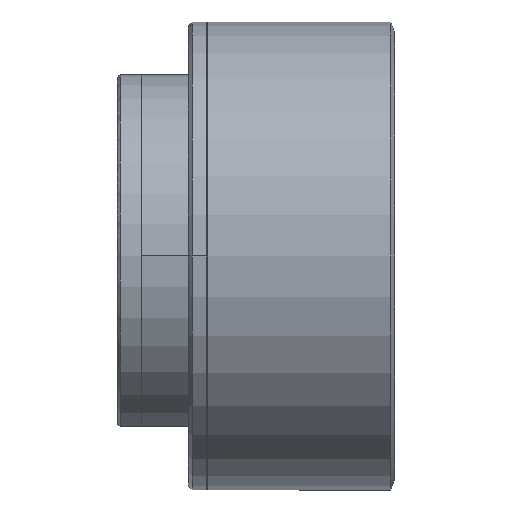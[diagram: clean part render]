
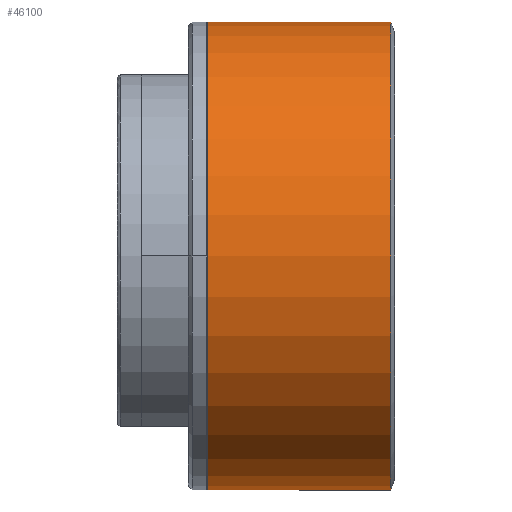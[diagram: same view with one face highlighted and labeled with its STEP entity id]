
A CAD part, front view. The second image highlights one B-rep face of the part: STEP entity #46100.
In plain terms, the highlighted cylindrical face has radius 44.5 mm (diameter 89 mm), a partial arc.
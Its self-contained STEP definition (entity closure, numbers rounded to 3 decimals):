
#311 = EDGE_CURVE ( 'NONE', #941, #28410, #35727, .T. ) ;
#941 = VERTEX_POINT ( 'NONE', #11945 ) ;
#3556 = AXIS2_PLACEMENT_3D ( 'NONE', #19122, #10914, #15012 ) ;
#3715 = ORIENTED_EDGE ( 'NONE', *, *, #311, .F. ) ;
#3857 = AXIS2_PLACEMENT_3D ( 'NONE', #47751, #16891, #8124 ) ;
#4906 = LINE ( 'NONE', #51373, #36409 ) ;
#6667 = DIRECTION ( 'NONE',  ( 1., 0., 0. ) ) ;
#7849 = VECTOR ( 'NONE', #20509, 1000. ) ;
#8124 = DIRECTION ( 'NONE',  ( 0., 0., -1. ) ) ;
#8996 = DIRECTION ( 'NONE',  ( 0., 0., 1. ) ) ;
#9068 = EDGE_CURVE ( 'NONE', #28410, #11251, #19683, .T. ) ;
#10914 = DIRECTION ( 'NONE',  ( -1., 0., 0. ) ) ;
#11112 = CARTESIAN_POINT ( 'NONE',  ( -0.728, 0., -44.5 ) ) ;
#11251 = VERTEX_POINT ( 'NONE', #50857 ) ;
#11945 = CARTESIAN_POINT ( 'NONE',  ( -35.5, 0., -44.5 ) ) ;
#13672 = DIRECTION ( 'NONE',  ( -1., 0., 0. ) ) ;
#15012 = DIRECTION ( 'NONE',  ( 0., 0., 1. ) ) ;
#16891 = DIRECTION ( 'NONE',  ( 1., 0., 0. ) ) ;
#19122 = CARTESIAN_POINT ( 'NONE',  ( -0.728, 0., 0. ) ) ;
#19683 = LINE ( 'NONE', #24808, #7849 ) ;
#20509 = DIRECTION ( 'NONE',  ( 1., 0., 0. ) ) ;
#21501 = ORIENTED_EDGE ( 'NONE', *, *, #42272, .T. ) ;
#24808 = CARTESIAN_POINT ( 'NONE',  ( 70.332, 0., 44.5 ) ) ;
#28410 = VERTEX_POINT ( 'NONE', #48794 ) ;
#35727 = CIRCLE ( 'NONE', #41237, 44.5 ) ;
#36409 = VECTOR ( 'NONE', #6667, 1000. ) ;
#41237 = AXIS2_PLACEMENT_3D ( 'NONE', #46031, #13672, #8996 ) ;
#42272 = EDGE_CURVE ( 'NONE', #42477, #11251, #45048, .T. ) ;
#42477 = VERTEX_POINT ( 'NONE', #11112 ) ;
#42820 = EDGE_LOOP ( 'NONE', ( #57490, #3715, #56263, #21501 ) ) ;
#45048 = CIRCLE ( 'NONE', #3556, 44.5 ) ;
#46031 = CARTESIAN_POINT ( 'NONE',  ( -35.5, 0., 0. ) ) ;
#46100 = ADVANCED_FACE ( 'NONE', ( #53879 ), #56630, .T. ) ;
#46592 = EDGE_CURVE ( 'NONE', #941, #42477, #4906, .T. ) ;
#47751 = CARTESIAN_POINT ( 'NONE',  ( 70.332, 0., 0. ) ) ;
#48794 = CARTESIAN_POINT ( 'NONE',  ( -35.5, 0., 44.5 ) ) ;
#50857 = CARTESIAN_POINT ( 'NONE',  ( -0.728, 0., 44.5 ) ) ;
#51373 = CARTESIAN_POINT ( 'NONE',  ( 70.332, 0., -44.5 ) ) ;
#53879 = FACE_OUTER_BOUND ( 'NONE', #42820, .T. ) ;
#56263 = ORIENTED_EDGE ( 'NONE', *, *, #46592, .T. ) ;
#56630 = CYLINDRICAL_SURFACE ( 'NONE', #3857, 44.5 ) ;
#57490 = ORIENTED_EDGE ( 'NONE', *, *, #9068, .F. ) ;
